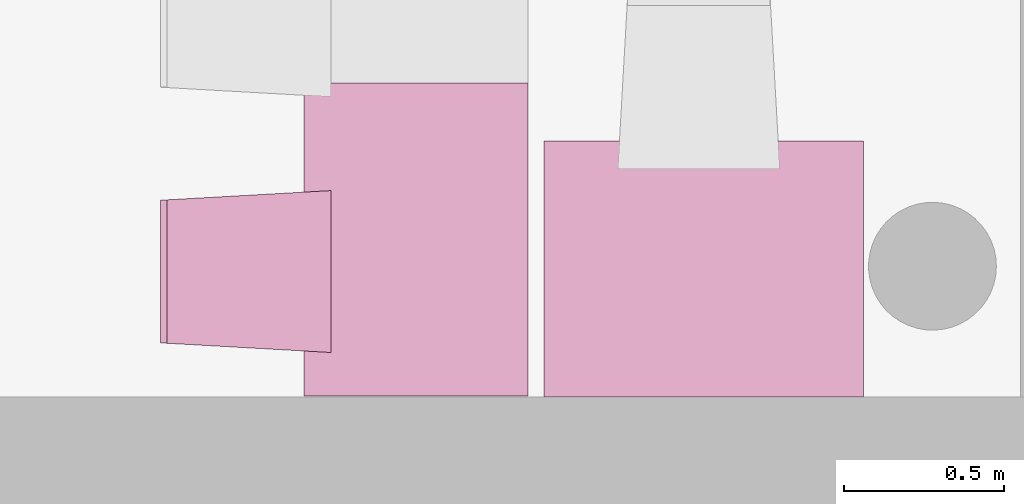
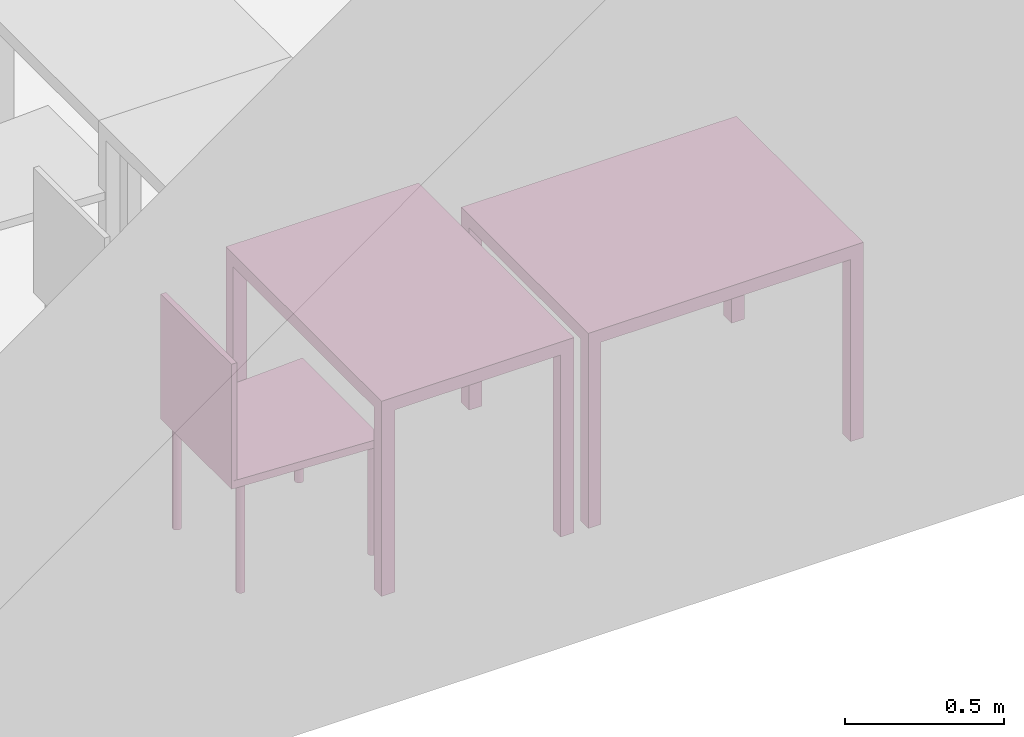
"""IFC4 building model written with IfcOpenShell, lengths in metres."""

from ifc_helpers import new_model, entity, si_unit, converted_unit, derived_unit, frame, origin, place, context, subcontext, project, spatial, faceted_brep, element, save


model = new_model("IFC4")

# Units and contexts
model_context = context("Model", 3, precision=1e-05, world=origin())
body_context = subcontext(model_context, "Body", "Model", "MODEL_VIEW")
ifc_project = project(units=[si_unit("LENGTHUNIT", "METRE"), si_unit("AREAUNIT", "SQUARE_METRE"), si_unit("VOLUMEUNIT", "CUBIC_METRE"), si_unit("MASSUNIT", "GRAM", prefix="KILO"), converted_unit("PLANEANGLEUNIT", "DEGREE", entity("IfcPlaneAngleMeasure", 0.0174532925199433), si_unit("PLANEANGLEUNIT", "RADIAN"), dimensions=[0, 0, 0, 0, 0, 0, 0]), derived_unit("THERMALTRANSMITTANCEUNIT", [(si_unit("POWERUNIT", "WATT"), 1), (si_unit("THERMODYNAMICTEMPERATUREUNIT", "KELVIN"), -1), (si_unit("LENGTHUNIT", "METRE"), -2)]), derived_unit("VOLUMETRICFLOWRATEUNIT", [(si_unit("LENGTHUNIT", "METRE"), 3), (converted_unit("TIMEUNIT", "hour", entity("IfcTimeMeasure", 3600.0), si_unit("TIMEUNIT", "SECOND"), dimensions=[0, 0, 1, 0, 0, 0, 0]), -1), (si_unit("LENGTHUNIT", "METRE"), -1)])], contexts=[model_context])

# Building, storeys
building_placement = place(None, origin())
building = spatial("IfcBuilding", under=ifc_project, at=building_placement, Name="HABITATGE PLURIFAMILIAR", CompositionType="ELEMENT")
storey_1_placement = place(building_placement, frame((0.0, 0.0, 3.35)))
storey_1 = spatial("IfcBuildingStorey", under=building, at=storey_1_placement, Name="PLANTA  ALTELL", CompositionType="ELEMENT", Elevation=3.35)
storey_2_placement = place(storey_1_placement, origin())
storey_2 = spatial("IfcBuildingStorey", under=storey_1, at=storey_2_placement, Name="NOU", CompositionType="PARTIAL")

# Furniture
furniture_1_placement = place(storey_2_placement, frame((414.921020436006, 13.2406121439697, 0.0)))
element("IfcFurniture", 1, at=furniture_1_placement, inside=storey_2, Name="Taula 100X80_PA", context=body_context, shape_type="Brep", body=[
    faceted_brep([(1.00000000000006, 0.05, 0.0), (0.953571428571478, 0.05, 0.0), (0.953571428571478, 0.0, 0.0), (1.00000000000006, 0.0, 0.0), (1.00000000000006, 0.0, 0.7), (0.953571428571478, 0.0, 0.7), (0.953571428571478, 0.05, 0.7), (1.00000000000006, 0.05, 0.7)], [[[0, 1, 2, 3]], [[4, 5, 6, 7]], [[3, 4, 7, 0]], [[2, 5, 4, 3]], [[1, 6, 5, 2]], [[0, 7, 6, 1]]], orient=[[False], [False], [False], [False], [False], [False]]),
    faceted_brep([(1.00000000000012, 0.800069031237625, 0.0), (0.953571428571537, 0.800069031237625, 0.0), (0.953571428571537, 0.750069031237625, 0.0), (1.00000000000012, 0.750069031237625, 0.0), (1.00000000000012, 0.750069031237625, 0.7), (0.953571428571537, 0.750069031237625, 0.7), (0.953571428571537, 0.800069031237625, 0.7), (1.00000000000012, 0.800069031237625, 0.7)], [[[0, 1, 2, 3]], [[4, 5, 6, 7]], [[3, 4, 7, 0]], [[2, 5, 4, 3]], [[1, 6, 5, 2]], [[0, 7, 6, 1]]], orient=[[False], [False], [False], [False], [False], [False]]),
    faceted_brep([(0.046428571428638, 0.0500000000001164, 0.0), (0.0, 0.0500000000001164, 0.0), (0.0, 0.0, 0.0), (0.046428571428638, 0.0, 0.0), (0.046428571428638, 0.0, 0.7), (0.0, 0.0, 0.7), (0.0, 0.0500000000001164, 0.7), (0.046428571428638, 0.0500000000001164, 0.7)], [[[0, 1, 2, 3]], [[4, 5, 6, 7]], [[3, 4, 7, 0]], [[2, 5, 4, 3]], [[1, 6, 5, 2]], [[0, 7, 6, 1]]], orient=[[False], [False], [False], [False], [False], [False]]),
    faceted_brep([(0.0464285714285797, 0.800069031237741, 0.0), (0.0, 0.800069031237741, 0.0), (0.0, 0.750069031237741, 0.0), (0.0464285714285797, 0.750069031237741, 0.0), (0.0464285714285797, 0.750069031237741, 0.7), (0.0, 0.750069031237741, 0.7), (0.0, 0.800069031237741, 0.7), (0.0464285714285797, 0.800069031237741, 0.7)], [[[0, 1, 2, 3]], [[4, 5, 6, 7]], [[3, 4, 7, 0]], [[2, 5, 4, 3]], [[1, 6, 5, 2]], [[0, 7, 6, 1]]], orient=[[False], [False], [False], [False], [False], [False]]),
    faceted_brep([(1.00000000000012, 0.800069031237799, 0.7), (0.0, 0.800069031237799, 0.7), (0.0, 0.0, 0.7), (1.00000000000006, 0.0, 0.7), (1.00000000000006, 0.0, 0.75), (0.0, 0.0, 0.75), (0.0, 0.800069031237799, 0.75), (1.00000000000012, 0.800069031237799, 0.75)], [[[0, 1, 2, 3]], [[4, 5, 6, 7]], [[3, 4, 7, 0]], [[2, 5, 4, 3]], [[1, 6, 5, 2]], [[0, 7, 6, 1]]], orient=[[False], [False], [False], [False], [False], [False]]),
])
furniture_2_placement = place(storey_2_placement, frame((414.171020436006, 13.2434480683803, 0.0)))
element("IfcFurniture", 2, at=furniture_2_placement, inside=storey_2, Name="Taula 80X70_PA", context=body_context, shape_type="Brep", body=[
    faceted_brep([(0.0, 0.0464285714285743, 0.0), (0.0, 0.0, 0.0), (0.0500000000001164, 0.0, 0.0), (0.0500000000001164, 0.0464285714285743, 0.0), (0.0500000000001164, 0.0464285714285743, 0.7), (0.0500000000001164, 0.0, 0.7), (0.0, 0.0, 0.7), (0.0, 0.0464285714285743, 0.7)], [[[0, 1, 2, 3]], [[4, 5, 6, 7]], [[3, 4, 7, 0]], [[2, 5, 4, 3]], [[1, 6, 5, 2]], [[0, 7, 6, 1]]], orient=[[False], [False], [False], [False], [False], [False]]),
    faceted_brep([(0.0, 0.98, 0.7), (0.0, 0.0, 0.7), (0.700069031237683, 0.0, 0.7), (0.700069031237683, 0.98, 0.7), (0.700069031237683, 0.98, 0.75), (0.700069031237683, 0.0, 0.75), (0.0, 0.0, 0.75), (0.0, 0.98, 0.75)], [[[0, 1, 2, 3]], [[4, 5, 6, 7]], [[3, 4, 7, 0]], [[2, 5, 4, 3]], [[1, 6, 5, 2]], [[0, 7, 6, 1]]], orient=[[False], [False], [False], [False], [False], [False]]),
    faceted_brep([(0.0, 0.980000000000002, 0.0), (0.0, 0.933571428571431, 0.0), (0.05, 0.933571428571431, 0.0), (0.05, 0.980000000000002, 0.0), (0.05, 0.980000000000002, 0.7), (0.05, 0.933571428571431, 0.7), (0.0, 0.933571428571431, 0.7), (0.0, 0.980000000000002, 0.7)], [[[0, 1, 2, 3]], [[4, 5, 6, 7]], [[3, 4, 7, 0]], [[2, 5, 4, 3]], [[1, 6, 5, 2]], [[0, 7, 6, 1]]], orient=[[False], [False], [False], [False], [False], [False]]),
    faceted_brep([(0.650069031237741, 0.98, 0.0), (0.650069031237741, 0.933571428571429, 0.0), (0.700069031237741, 0.933571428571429, 0.0), (0.700069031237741, 0.98, 0.0), (0.700069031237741, 0.98, 0.7), (0.700069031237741, 0.933571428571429, 0.7), (0.650069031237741, 0.933571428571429, 0.7), (0.650069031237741, 0.98, 0.7)], [[[0, 1, 2, 3]], [[4, 5, 6, 7]], [[3, 4, 7, 0]], [[2, 5, 4, 3]], [[1, 6, 5, 2]], [[0, 7, 6, 1]]], orient=[[False], [False], [False], [False], [False], [False]]),
    faceted_brep([(0.650069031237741, 0.0464285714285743, 0.0), (0.650069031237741, 0.0, 0.0), (0.700069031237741, 0.0, 0.0), (0.700069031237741, 0.0464285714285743, 0.0), (0.700069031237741, 0.0464285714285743, 0.7), (0.700069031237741, 0.0, 0.7), (0.650069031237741, 0.0, 0.7), (0.650069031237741, 0.0464285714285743, 0.7)], [[[0, 1, 2, 3]], [[4, 5, 6, 7]], [[3, 4, 7, 0]], [[2, 5, 4, 3]], [[1, 6, 5, 2]], [[0, 7, 6, 1]]], orient=[[False], [False], [False], [False], [False], [False]]),
])
furniture_3_placement = place(storey_2_placement, frame((413.721879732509, 13.3796818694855, 0.0499839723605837)))
element("IfcFurniture", 3, at=furniture_3_placement, inside=storey_2, Name="Cadira confident_PA", context=body_context, shape_type="Brep", body=[
    faceted_brep([(0.507575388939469, 0.0391636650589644, 0.0), (0.504980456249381, 0.0389479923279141, 0.0), (0.502462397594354, 0.0382849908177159, 0.0), (0.50009772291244, 0.0371948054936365, 0.0), (0.497958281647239, 0.0357105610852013, 0.0), (0.496109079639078, 0.0338773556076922, 0.0), (0.494606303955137, 0.0317508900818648, 0.0), (0.493495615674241, 0.0293957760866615, 0.0), (0.492810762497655, 0.0268835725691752, 0.0), (0.492572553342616, 0.0242906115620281, 0.0), (0.492788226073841, 0.0216956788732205, 0.0), (0.493451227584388, 0.019177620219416, 0.0), (0.494541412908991, 0.0168129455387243, 0.0), (0.496025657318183, 0.0146735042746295, 0.0), (0.497858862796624, 0.0128243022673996, 0.0), (0.499985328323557, 0.0113215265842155, 0.0), (0.502340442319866, 0.0102108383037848, 0.0), (0.504852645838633, 0.00952598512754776, 0.0), (0.507445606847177, 0.00928777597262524, 0.0), (0.510040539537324, 0.00950344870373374, 0.0), (0.512558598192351, 0.010166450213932, 0.0), (0.514923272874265, 0.0112566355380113, 0.0), (0.517062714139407, 0.0127408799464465, 0.0), (0.518911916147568, 0.0145740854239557, 0.0), (0.520414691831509, 0.0167005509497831, 0.0), (0.521525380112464, 0.0190556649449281, 0.0), (0.52221023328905, 0.0215678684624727, 0.0), (0.522448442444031, 0.024160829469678, 0.0), (0.522232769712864, 0.0267557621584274, 0.0), (0.521569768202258, 0.0292738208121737, 0.0), (0.520479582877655, 0.0316384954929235, 0.0), (0.518995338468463, 0.0337779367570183, 0.0), (0.517162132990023, 0.0356271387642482, 0.0), (0.515035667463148, 0.0371299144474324, 0.0), (0.51268055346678, 0.038240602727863, 0.0), (0.510168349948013, 0.0389254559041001, 0.0), (0.507575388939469, 0.0391636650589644, 0.448281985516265), (0.510168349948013, 0.0389254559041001, 0.448281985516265), (0.51268055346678, 0.038240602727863, 0.448281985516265), (0.515035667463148, 0.0371299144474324, 0.448281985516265), (0.517162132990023, 0.0356271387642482, 0.448281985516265), (0.518995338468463, 0.0337779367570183, 0.448281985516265), (0.520479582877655, 0.0316384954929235, 0.448281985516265), (0.521569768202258, 0.0292738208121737, 0.448281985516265), (0.522232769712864, 0.0267557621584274, 0.448281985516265), (0.522448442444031, 0.024160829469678, 0.448281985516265), (0.52221023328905, 0.0215678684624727, 0.448281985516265), (0.521525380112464, 0.0190556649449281, 0.448281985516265), (0.520414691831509, 0.0167005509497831, 0.448281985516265), (0.518911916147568, 0.0145740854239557, 0.448281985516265), (0.517062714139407, 0.0127408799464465, 0.448281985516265), (0.514923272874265, 0.0112566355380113, 0.448281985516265), (0.512558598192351, 0.010166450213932, 0.448281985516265), (0.510040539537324, 0.00950344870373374, 0.448281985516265), (0.507445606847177, 0.00928777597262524, 0.448281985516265), (0.504852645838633, 0.00952598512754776, 0.448281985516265), (0.502340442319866, 0.0102108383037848, 0.448281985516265), (0.499985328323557, 0.0113215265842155, 0.448281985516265), (0.497858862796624, 0.0128243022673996, 0.448281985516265), (0.496025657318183, 0.0146735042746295, 0.448281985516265), (0.494541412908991, 0.0168129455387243, 0.448281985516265), (0.493451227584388, 0.019177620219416, 0.448281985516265), (0.492788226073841, 0.0216956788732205, 0.448281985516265), (0.492572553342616, 0.0242906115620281, 0.448281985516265), (0.492810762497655, 0.0268835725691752, 0.448281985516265), (0.493495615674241, 0.0293957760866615, 0.448281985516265), (0.494606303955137, 0.0317508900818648, 0.448281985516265), (0.496109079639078, 0.0338773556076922, 0.448281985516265), (0.497958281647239, 0.0357105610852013, 0.448281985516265), (0.50009772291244, 0.0371948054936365, 0.448281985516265), (0.502462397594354, 0.0382849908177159, 0.448281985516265), (0.504980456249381, 0.0389479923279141, 0.448281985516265)], [[[0, 1, 2, 3, 4, 5, 6, 7, 8, 9, 10, 11, 12, 13, 14, 15, 16, 17, 18, 19, 20, 21, 22, 23, 24, 25, 26, 27, 28, 29, 30, 31, 32, 33, 34, 35]], [[36, 37, 38, 39, 40, 41, 42, 43, 44, 45, 46, 47, 48, 49, 50, 51, 52, 53, 54, 55, 56, 57, 58, 59, 60, 61, 62, 63, 64, 65, 66, 67, 68, 69, 70, 71]], [[1, 0, 36, 71]], [[2, 1, 71, 70]], [[3, 2, 70, 69]], [[4, 3, 69, 68]], [[5, 4, 68, 67]], [[6, 5, 67, 66]], [[7, 6, 66, 65]], [[8, 7, 65, 64]], [[9, 8, 64, 63]], [[10, 9, 63, 62]], [[11, 10, 62, 61]], [[12, 11, 61, 60]], [[13, 12, 60, 59]], [[14, 13, 59, 58]], [[15, 14, 58, 57]], [[16, 15, 57, 56]], [[17, 16, 56, 55]], [[18, 17, 55, 54]], [[19, 18, 54, 53]], [[20, 19, 53, 52]], [[21, 20, 52, 51]], [[22, 21, 51, 50]], [[23, 22, 50, 49]], [[24, 23, 49, 48]], [[25, 24, 48, 47]], [[26, 25, 47, 46]], [[27, 26, 46, 45]], [[28, 27, 45, 44]], [[29, 28, 44, 43]], [[30, 29, 43, 42]], [[31, 30, 42, 41]], [[32, 31, 41, 40]], [[33, 32, 40, 39]], [[34, 33, 39, 38]], [[35, 34, 38, 37]], [[0, 35, 37, 36]]], orient=[[False], [False], [False], [False], [False], [False], [False], [False], [False], [False], [False], [False], [False], [False], [False], [False], [False], [False], [False], [False], [False], [False], [False], [False], [False], [False], [False], [False], [False], [False], [False], [False], [False], [False], [False], [False], [False], [False]]),
    faceted_brep([(0.0451683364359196, 0.0668016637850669, 0.0), (0.0425734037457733, 0.0665859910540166, 0.0), (0.0400553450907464, 0.065922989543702, 0.0), (0.0376906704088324, 0.0648328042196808, 0.0), (0.0355512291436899, 0.0633485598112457, 0.0), (0.0337020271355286, 0.0615153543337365, 0.0), (0.0321992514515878, 0.0593888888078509, 0.0), (0.0310885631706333, 0.057033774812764, 0.0), (0.0304037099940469, 0.0545215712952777, 0.0), (0.030165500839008, 0.0519286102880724, 0.0), (0.0303811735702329, 0.0493336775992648, 0.0), (0.0310441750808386, 0.0468156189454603, 0.0), (0.0321343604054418, 0.0444509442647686, 0.0), (0.0336186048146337, 0.0423115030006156, 0.0), (0.0354518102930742, 0.0404623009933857, 0.0), (0.0375782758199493, 0.0389595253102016, 0.0), (0.0399333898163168, 0.0378488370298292, 0.0), (0.0424455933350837, 0.0371639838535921, 0.0), (0.0450385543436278, 0.0369257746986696, 0.0), (0.0476334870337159, 0.0371414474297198, 0.0), (0.0501515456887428, 0.0378044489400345, 0.0), (0.0525162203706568, 0.0388946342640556, 0.0), (0.0546556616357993, 0.0403788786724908, 0.0), (0.0565048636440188, 0.0422120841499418, 0.0), (0.0580076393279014, 0.0443385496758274, 0.0), (0.0591183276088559, 0.0466936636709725, 0.0), (0.0598031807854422, 0.0492058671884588, 0.0), (0.0600413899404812, 0.0517988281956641, 0.0), (0.0598257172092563, 0.0543937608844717, 0.0), (0.0591627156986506, 0.0569118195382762, 0.0), (0.0580725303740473, 0.0592764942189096, 0.0), (0.0565882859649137, 0.0614159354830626, 0.0), (0.0547550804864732, 0.0632651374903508, 0.0), (0.0526286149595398, 0.0647679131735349, 0.0), (0.0502735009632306, 0.0658786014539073, 0.0), (0.0477612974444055, 0.0665634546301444, 0.0), (0.0451683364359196, 0.0668016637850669, 0.448281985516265), (0.0477612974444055, 0.0665634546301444, 0.448281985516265), (0.0502735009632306, 0.0658786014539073, 0.448281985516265), (0.0526286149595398, 0.0647679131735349, 0.448281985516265), (0.0547550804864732, 0.0632651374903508, 0.448281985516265), (0.0565882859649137, 0.0614159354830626, 0.448281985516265), (0.0580725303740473, 0.0592764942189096, 0.448281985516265), (0.0591627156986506, 0.0569118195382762, 0.448281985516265), (0.0598257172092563, 0.0543937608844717, 0.448281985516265), (0.0600413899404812, 0.0517988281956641, 0.448281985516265), (0.0598031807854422, 0.0492058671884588, 0.448281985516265), (0.0591183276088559, 0.0466936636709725, 0.448281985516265), (0.0580076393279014, 0.0443385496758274, 0.448281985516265), (0.0565048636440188, 0.0422120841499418, 0.448281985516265), (0.0546556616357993, 0.0403788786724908, 0.448281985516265), (0.0525162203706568, 0.0388946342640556, 0.448281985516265), (0.0501515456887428, 0.0378044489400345, 0.448281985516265), (0.0476334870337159, 0.0371414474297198, 0.448281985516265), (0.0450385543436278, 0.0369257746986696, 0.448281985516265), (0.0424455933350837, 0.0371639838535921, 0.448281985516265), (0.0399333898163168, 0.0378488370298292, 0.448281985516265), (0.0375782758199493, 0.0389595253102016, 0.448281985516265), (0.0354518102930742, 0.0404623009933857, 0.448281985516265), (0.0336186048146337, 0.0423115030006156, 0.448281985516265), (0.0321343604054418, 0.0444509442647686, 0.448281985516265), (0.0310441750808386, 0.0468156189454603, 0.448281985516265), (0.0303811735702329, 0.0493336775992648, 0.448281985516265), (0.030165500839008, 0.0519286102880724, 0.448281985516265), (0.0304037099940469, 0.0545215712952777, 0.448281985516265), (0.0310885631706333, 0.057033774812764, 0.448281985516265), (0.0321992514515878, 0.0593888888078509, 0.448281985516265), (0.0337020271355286, 0.0615153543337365, 0.448281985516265), (0.0355512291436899, 0.0633485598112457, 0.448281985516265), (0.0376906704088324, 0.0648328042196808, 0.448281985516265), (0.0400553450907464, 0.065922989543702, 0.448281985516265), (0.0425734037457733, 0.0665859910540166, 0.448281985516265)], [[[0, 1, 2, 3, 4, 5, 6, 7, 8, 9, 10, 11, 12, 13, 14, 15, 16, 17, 18, 19, 20, 21, 22, 23, 24, 25, 26, 27, 28, 29, 30, 31, 32, 33, 34, 35]], [[36, 37, 38, 39, 40, 41, 42, 43, 44, 45, 46, 47, 48, 49, 50, 51, 52, 53, 54, 55, 56, 57, 58, 59, 60, 61, 62, 63, 64, 65, 66, 67, 68, 69, 70, 71]], [[1, 0, 36, 71]], [[2, 1, 71, 70]], [[3, 2, 70, 69]], [[4, 3, 69, 68]], [[5, 4, 68, 67]], [[6, 5, 67, 66]], [[7, 6, 66, 65]], [[8, 7, 65, 64]], [[9, 8, 64, 63]], [[10, 9, 63, 62]], [[11, 10, 62, 61]], [[12, 11, 61, 60]], [[13, 12, 60, 59]], [[14, 13, 59, 58]], [[15, 14, 58, 57]], [[16, 15, 57, 56]], [[17, 16, 56, 55]], [[18, 17, 55, 54]], [[19, 18, 54, 53]], [[20, 19, 53, 52]], [[21, 20, 52, 51]], [[22, 21, 51, 50]], [[23, 22, 50, 49]], [[24, 23, 49, 48]], [[25, 24, 48, 47]], [[26, 25, 47, 46]], [[27, 26, 46, 45]], [[28, 27, 45, 44]], [[29, 28, 44, 43]], [[30, 29, 43, 42]], [[31, 30, 42, 41]], [[32, 31, 41, 40]], [[33, 32, 40, 39]], [[34, 33, 39, 38]], [[35, 34, 38, 37]], [[0, 35, 37, 36]]], orient=[[False], [False], [False], [False], [False], [False], [False], [False], [False], [False], [False], [False], [False], [False], [False], [False], [False], [False], [False], [False], [False], [False], [False], [False], [False], [False], [False], [False], [False], [False], [False], [False], [False], [False], [False], [False], [False], [False]]),
    faceted_brep([(0.50757538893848, 0.499163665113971, 0.0), (0.504980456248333, 0.49894799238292, 0.0), (0.502462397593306, 0.498284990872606, 0.0), (0.500097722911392, 0.497194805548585, 0.0), (0.49795828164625, 0.495710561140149, 0.0), (0.496109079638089, 0.493877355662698, 0.0), (0.494606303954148, 0.491750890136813, 0.0), (0.493495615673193, 0.489395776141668, 0.0), (0.492810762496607, 0.486883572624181, 0.0), (0.492572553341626, 0.484290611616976, 0.0), (0.492788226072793, 0.481695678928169, 0.0), (0.493451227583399, 0.479177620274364, 0.0), (0.494541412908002, 0.476812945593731, 0.0), (0.496025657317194, 0.474673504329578, 0.0), (0.497858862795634, 0.472824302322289, 0.0), (0.499985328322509, 0.471321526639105, 0.0), (0.502340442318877, 0.470210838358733, 0.0), (0.504852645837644, 0.469525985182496, 0.0), (0.507445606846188, 0.469287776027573, 0.0), (0.510040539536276, 0.469503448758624, 0.0), (0.512558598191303, 0.470166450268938, 0.0), (0.514923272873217, 0.471256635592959, 0.0), (0.517062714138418, 0.472740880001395, 0.0), (0.518911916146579, 0.474574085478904, 0.0), (0.52041469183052, 0.476700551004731, 0.0), (0.521525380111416, 0.479055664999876, 0.0), (0.522210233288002, 0.481567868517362, 0.0), (0.522448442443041, 0.484160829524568, 0.0), (0.522232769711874, 0.486755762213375, 0.0), (0.521569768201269, 0.48927382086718, 0.0), (0.520479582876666, 0.491638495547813, 0.0), (0.518995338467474, 0.493777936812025, 0.0), (0.517162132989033, 0.495627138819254, 0.0), (0.515035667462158, 0.497129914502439, 0.0), (0.512680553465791, 0.498240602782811, 0.0), (0.510168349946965, 0.498925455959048, 0.0), (0.50757538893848, 0.499163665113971, 0.448281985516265), (0.510168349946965, 0.498925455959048, 0.448281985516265), (0.512680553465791, 0.498240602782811, 0.448281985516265), (0.515035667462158, 0.497129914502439, 0.448281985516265), (0.517162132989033, 0.495627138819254, 0.448281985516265), (0.518995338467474, 0.493777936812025, 0.448281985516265), (0.520479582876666, 0.491638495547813, 0.448281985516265), (0.521569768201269, 0.48927382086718, 0.448281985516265), (0.522232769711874, 0.486755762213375, 0.448281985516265), (0.522448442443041, 0.484160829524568, 0.448281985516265), (0.522210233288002, 0.481567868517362, 0.448281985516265), (0.521525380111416, 0.479055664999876, 0.448281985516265), (0.52041469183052, 0.476700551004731, 0.448281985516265), (0.518911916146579, 0.474574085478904, 0.448281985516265), (0.517062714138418, 0.472740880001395, 0.448281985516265), (0.514923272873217, 0.471256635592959, 0.448281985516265), (0.512558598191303, 0.470166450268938, 0.448281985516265), (0.510040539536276, 0.469503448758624, 0.448281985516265), (0.507445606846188, 0.469287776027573, 0.448281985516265), (0.504852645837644, 0.469525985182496, 0.448281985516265), (0.502340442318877, 0.470210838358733, 0.448281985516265), (0.499985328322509, 0.471321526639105, 0.448281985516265), (0.497858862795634, 0.472824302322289, 0.448281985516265), (0.496025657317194, 0.474673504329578, 0.448281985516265), (0.494541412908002, 0.476812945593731, 0.448281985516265), (0.493451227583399, 0.479177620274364, 0.448281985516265), (0.492788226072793, 0.481695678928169, 0.448281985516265), (0.492572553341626, 0.484290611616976, 0.448281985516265), (0.492810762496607, 0.486883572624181, 0.448281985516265), (0.493495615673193, 0.489395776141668, 0.448281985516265), (0.494606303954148, 0.491750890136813, 0.448281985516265), (0.496109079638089, 0.493877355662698, 0.448281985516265), (0.49795828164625, 0.495710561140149, 0.448281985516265), (0.500097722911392, 0.497194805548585, 0.448281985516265), (0.502462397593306, 0.498284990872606, 0.448281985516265), (0.504980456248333, 0.49894799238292, 0.448281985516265)], [[[0, 1, 2, 3, 4, 5, 6, 7, 8, 9, 10, 11, 12, 13, 14, 15, 16, 17, 18, 19, 20, 21, 22, 23, 24, 25, 26, 27, 28, 29, 30, 31, 32, 33, 34, 35]], [[36, 37, 38, 39, 40, 41, 42, 43, 44, 45, 46, 47, 48, 49, 50, 51, 52, 53, 54, 55, 56, 57, 58, 59, 60, 61, 62, 63, 64, 65, 66, 67, 68, 69, 70, 71]], [[1, 0, 36, 71]], [[2, 1, 71, 70]], [[3, 2, 70, 69]], [[4, 3, 69, 68]], [[5, 4, 68, 67]], [[6, 5, 67, 66]], [[7, 6, 66, 65]], [[8, 7, 65, 64]], [[9, 8, 64, 63]], [[10, 9, 63, 62]], [[11, 10, 62, 61]], [[12, 11, 61, 60]], [[13, 12, 60, 59]], [[14, 13, 59, 58]], [[15, 14, 58, 57]], [[16, 15, 57, 56]], [[17, 16, 56, 55]], [[18, 17, 55, 54]], [[19, 18, 54, 53]], [[20, 19, 53, 52]], [[21, 20, 52, 51]], [[22, 21, 51, 50]], [[23, 22, 50, 49]], [[24, 23, 49, 48]], [[25, 24, 48, 47]], [[26, 25, 47, 46]], [[27, 26, 46, 45]], [[28, 27, 45, 44]], [[29, 28, 44, 43]], [[30, 29, 43, 42]], [[31, 30, 42, 41]], [[32, 31, 41, 40]], [[33, 32, 40, 39]], [[34, 33, 39, 38]], [[35, 34, 38, 37]], [[0, 35, 37, 36]]], orient=[[False], [False], [False], [False], [False], [False], [False], [False], [False], [False], [False], [False], [False], [False], [False], [False], [False], [False], [False], [False], [False], [False], [False], [False], [False], [False], [False], [False], [False], [False], [False], [False], [False], [False], [False], [False], [False], [False]]),
    faceted_brep([(0.0451683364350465, 0.466801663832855, 0.0), (0.0425734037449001, 0.466585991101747, 0.0), (0.0400553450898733, 0.46592298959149, 0.0), (0.0376906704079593, 0.464832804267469, 0.0), (0.0355512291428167, 0.463348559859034, 0.0), (0.0337020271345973, 0.461515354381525, 0.0), (0.0321992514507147, 0.459388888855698, 0.0), (0.0310885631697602, 0.457033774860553, 0.0), (0.0304037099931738, 0.454521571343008, 0.0), (0.0301655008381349, 0.451928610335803, 0.0), (0.0303811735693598, 0.449333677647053, 0.0), (0.0310441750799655, 0.446815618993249, 0.0), (0.0321343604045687, 0.444450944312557, 0.0), (0.0336186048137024, 0.442311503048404, 0.0), (0.0354518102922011, 0.440462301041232, 0.0), (0.0375782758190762, 0.43895952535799, 0.0), (0.0399333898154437, 0.437848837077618, 0.0), (0.0424455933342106, 0.437163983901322, 0.0), (0.0450385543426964, 0.436925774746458, 0.0), (0.0476334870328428, 0.437141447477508, 0.0), (0.0501515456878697, 0.437804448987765, 0.0), (0.0525162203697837, 0.438894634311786, 0.0), (0.0546556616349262, 0.440378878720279, 0.0), (0.0565048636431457, 0.44221208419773, 0.0), (0.0580076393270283, 0.444338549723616, 0.0), (0.0591183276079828, 0.446693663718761, 0.0), (0.0598031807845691, 0.449205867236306, 0.0), (0.0600413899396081, 0.451798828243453, 0.0), (0.0598257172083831, 0.45439376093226, 0.0), (0.0591627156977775, 0.456911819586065, 0.0), (0.0580725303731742, 0.459276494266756, 0.0), (0.0565882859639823, 0.461415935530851, 0.0), (0.0547550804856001, 0.463265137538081, 0.0), (0.0526286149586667, 0.464767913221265, 0.0), (0.0502735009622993, 0.465878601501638, 0.0), (0.0477612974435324, 0.466563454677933, 0.0), (0.0451683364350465, 0.466801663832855, 0.448281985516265), (0.0477612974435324, 0.466563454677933, 0.448281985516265), (0.0502735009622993, 0.465878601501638, 0.448281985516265), (0.0526286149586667, 0.464767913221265, 0.448281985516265), (0.0547550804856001, 0.463265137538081, 0.448281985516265), (0.0565882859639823, 0.461415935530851, 0.448281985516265), (0.0580725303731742, 0.459276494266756, 0.448281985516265), (0.0591627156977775, 0.456911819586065, 0.448281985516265), (0.0598257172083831, 0.45439376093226, 0.448281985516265), (0.0600413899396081, 0.451798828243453, 0.448281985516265), (0.0598031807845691, 0.449205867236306, 0.448281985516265), (0.0591183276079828, 0.446693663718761, 0.448281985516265), (0.0580076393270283, 0.444338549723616, 0.448281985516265), (0.0565048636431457, 0.44221208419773, 0.448281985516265), (0.0546556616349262, 0.440378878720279, 0.448281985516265), (0.0525162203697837, 0.438894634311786, 0.448281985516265), (0.0501515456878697, 0.437804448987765, 0.448281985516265), (0.0476334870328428, 0.437141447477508, 0.448281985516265), (0.0450385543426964, 0.436925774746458, 0.448281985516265), (0.0424455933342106, 0.437163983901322, 0.448281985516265), (0.0399333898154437, 0.437848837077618, 0.448281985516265), (0.0375782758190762, 0.43895952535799, 0.448281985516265), (0.0354518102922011, 0.440462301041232, 0.448281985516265), (0.0336186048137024, 0.442311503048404, 0.448281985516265), (0.0321343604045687, 0.444450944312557, 0.448281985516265), (0.0310441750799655, 0.446815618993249, 0.448281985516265), (0.0303811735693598, 0.449333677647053, 0.448281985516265), (0.0301655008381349, 0.451928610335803, 0.448281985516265), (0.0304037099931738, 0.454521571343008, 0.448281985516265), (0.0310885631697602, 0.457033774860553, 0.448281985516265), (0.0321992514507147, 0.459388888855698, 0.448281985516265), (0.0337020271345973, 0.461515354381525, 0.448281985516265), (0.0355512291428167, 0.463348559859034, 0.448281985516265), (0.0376906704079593, 0.464832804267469, 0.448281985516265), (0.0400553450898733, 0.46592298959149, 0.448281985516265), (0.0425734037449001, 0.466585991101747, 0.448281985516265)], [[[0, 1, 2, 3, 4, 5, 6, 7, 8, 9, 10, 11, 12, 13, 14, 15, 16, 17, 18, 19, 20, 21, 22, 23, 24, 25, 26, 27, 28, 29, 30, 31, 32, 33, 34, 35]], [[36, 37, 38, 39, 40, 41, 42, 43, 44, 45, 46, 47, 48, 49, 50, 51, 52, 53, 54, 55, 56, 57, 58, 59, 60, 61, 62, 63, 64, 65, 66, 67, 68, 69, 70, 71]], [[1, 0, 36, 71]], [[2, 1, 71, 70]], [[3, 2, 70, 69]], [[4, 3, 69, 68]], [[5, 4, 68, 67]], [[6, 5, 67, 66]], [[7, 6, 66, 65]], [[8, 7, 65, 64]], [[9, 8, 64, 63]], [[10, 9, 63, 62]], [[11, 10, 62, 61]], [[12, 11, 61, 60]], [[13, 12, 60, 59]], [[14, 13, 59, 58]], [[15, 14, 58, 57]], [[16, 15, 57, 56]], [[17, 16, 56, 55]], [[18, 17, 55, 54]], [[19, 18, 54, 53]], [[20, 19, 53, 52]], [[21, 20, 52, 51]], [[22, 21, 51, 50]], [[23, 22, 50, 49]], [[24, 23, 49, 48]], [[25, 24, 48, 47]], [[26, 25, 47, 46]], [[27, 26, 46, 45]], [[28, 27, 45, 44]], [[29, 28, 44, 43]], [[30, 29, 43, 42]], [[31, 30, 42, 41]], [[32, 31, 41, 40]], [[33, 32, 40, 39]], [[34, 33, 39, 38]], [[35, 34, 38, 37]], [[0, 35, 37, 36]]], orient=[[False], [False], [False], [False], [False], [False], [False], [False], [False], [False], [False], [False], [False], [False], [False], [False], [False], [False], [False], [False], [False], [False], [False], [False], [False], [False], [False], [False], [False], [False], [False], [False], [False], [False], [False], [False], [False], [False]]),
    faceted_brep([(0.0, 0.476514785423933, 0.418281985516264), (0.0, 0.0300000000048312, 0.418281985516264), (0.532607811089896, 0.0, 0.418281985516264), (0.53260781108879, 0.506514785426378, 0.418281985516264), (0.53260781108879, 0.506514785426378, 0.448281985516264), (0.532607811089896, 0.0, 0.448281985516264), (0.0, 0.0300000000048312, 0.448281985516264), (0.0, 0.476514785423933, 0.448281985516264)], [[[0, 1, 2, 3]], [[4, 5, 6, 7]], [[3, 4, 7, 0]], [[2, 5, 4, 3]], [[1, 6, 5, 2]], [[0, 7, 6, 1]]], orient=[[False], [False], [False], [False], [False], [False]]),
    faceted_brep([(0.0200000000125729, 0.476514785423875, 0.448281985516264), (0.0, 0.476514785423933, 0.448281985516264), (0.0, 0.0300000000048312, 0.448281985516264), (0.0200000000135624, 0.0300000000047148, 0.448281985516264), (0.0200000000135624, 0.0300000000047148, 0.898281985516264), (0.0, 0.0300000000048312, 0.898281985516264), (0.0, 0.476514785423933, 0.898281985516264), (0.0200000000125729, 0.476514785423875, 0.898281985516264)], [[[0, 1, 2, 3]], [[4, 5, 6, 7]], [[3, 4, 7, 0]], [[2, 5, 4, 3]], [[1, 6, 5, 2]], [[0, 7, 6, 1]]], orient=[[False], [False], [False], [False], [False], [False]]),
])

save(model, "model.ifc")
